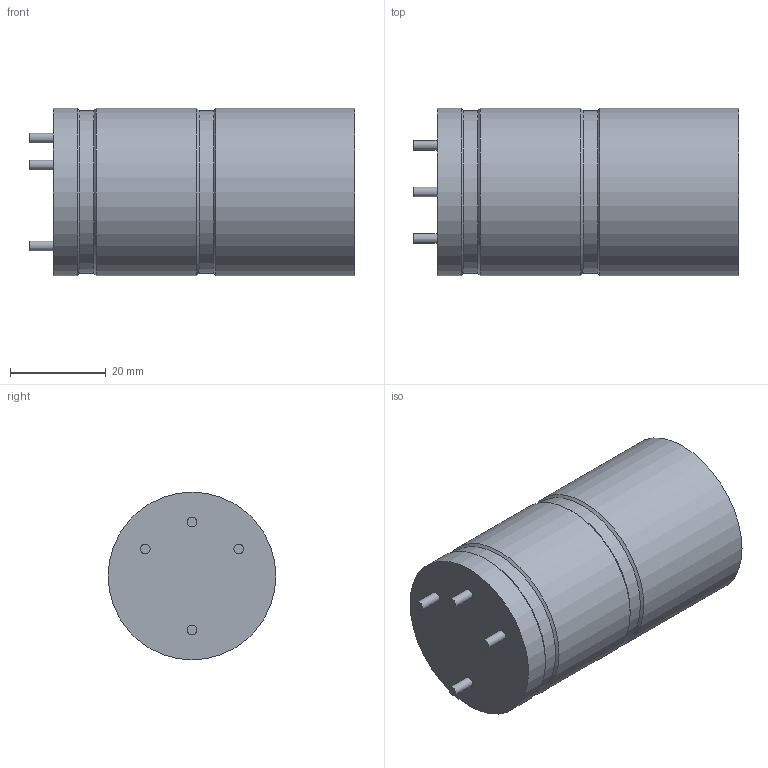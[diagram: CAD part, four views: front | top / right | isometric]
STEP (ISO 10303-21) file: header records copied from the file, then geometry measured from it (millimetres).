
FILE_DESCRIPTION(('FreeCAD Model'),'2;1');
FILE_NAME('Open CASCADE Shape Model','2022-04-15T23:19:25',( 'kicad StepUp'),('ksu MCAD'),'Open CASCADE STEP processor 7.5', 'FreeCAD','Unknown');
FILE_SCHEMA(('AUTOMOTIVE_DESIGN { 1 0 10303 214 1 1 1 1 }'));
Length unit declared in the file: millimetre
Products named in the file (1): Body
Bounding box: 68 x 35 x 35 mm (x, y, z)
Volume: 60296.3 mm3; surface area: 9044.9 mm2
Topology: 1 solids, 1 shells, 19 faces, 31 edges, 18 vertices
Faces by surface type: cylinder 9, plane 6, cone 4
Full cylindrical faces by diameter (mm): 2 x4, 34 x2, 35 x3
Entity records: 461 total; most frequent: DIRECTION 89, CARTESIAN_POINT 69, ORIENTED_EDGE 62, AXIS2_PLACEMENT_3D 38, EDGE_CURVE 31, FACE_BOUND 23, EDGE_LOOP 23, ADVANCED_FACE 19
